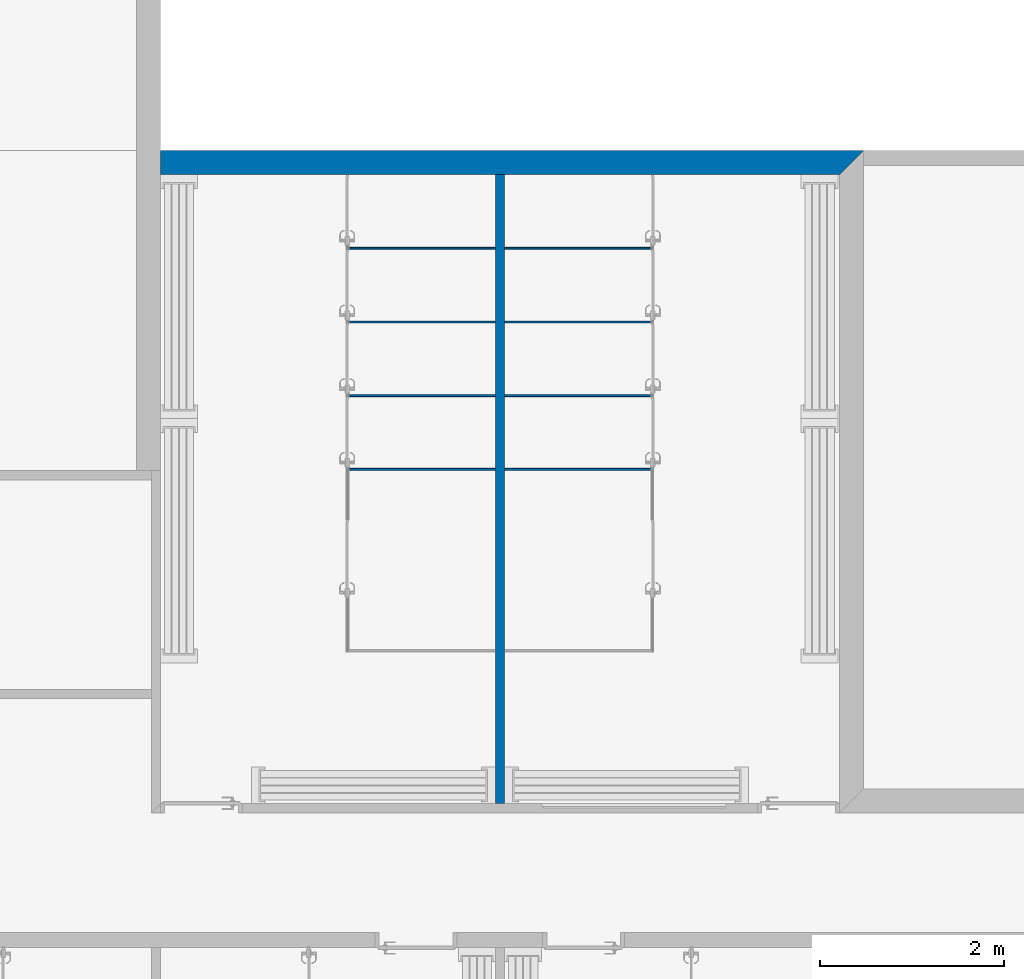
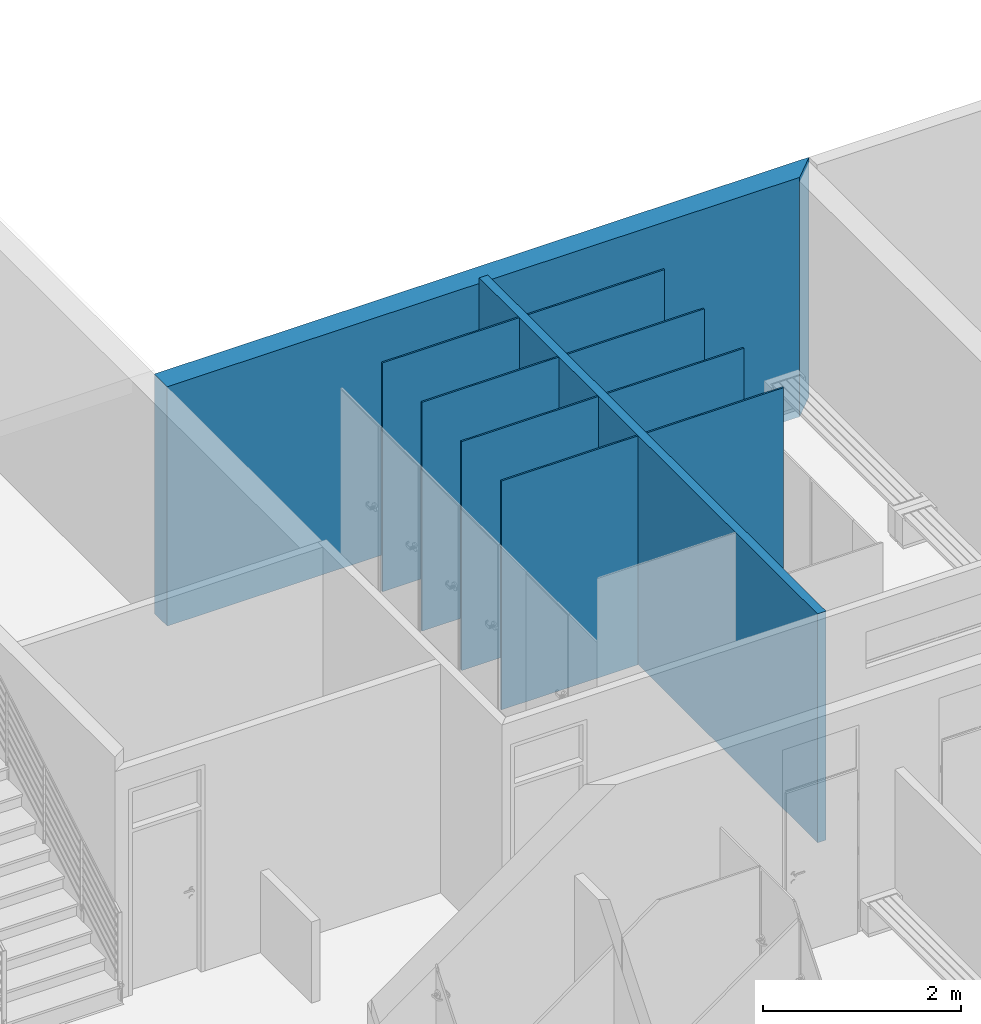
# One storey, part 26 of 45: 10 walls.
"""IFC2X3 building model written with IfcOpenShell, lengths in metres."""

from ifc_helpers import new_model, entity, si_unit, converted_unit, money_unit, direction, frame, origin_with_axes, place, context, subcontext, project, spatial, polyline, outline, extrude, material, layer, layer_set, layer_usage, type_object, element, save


model = new_model("IFC2X3")

# Units and contexts
model_context = context("Model", 3, precision=1e-05, world=origin_with_axes(), true_north=direction((0.0, 1.0)))
body_context = subcontext(model_context, "Body", "Model", "MODEL_VIEW")
ifc_project = project(units=[si_unit("LENGTHUNIT", "METRE"), si_unit("AREAUNIT", "SQUARE_METRE"), si_unit("VOLUMEUNIT", "CUBIC_METRE"), converted_unit("PLANEANGLEUNIT", "DEGREE", entity("IfcPlaneAngleMeasure", 0.0174532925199), si_unit("PLANEANGLEUNIT", "RADIAN"), dimensions=[0, 0, 0, 0, 0, 0, 0]), si_unit("SOLIDANGLEUNIT", "STERADIAN"), money_unit("EUR"), converted_unit("TIMEUNIT", "Year", entity("IfcTimeMeasure", 31556926.0), si_unit("TIMEUNIT", "SECOND"), dimensions=[0, 0, 0, 0, 0, 0, 0]), si_unit("MASSUNIT", "GRAM"), si_unit("THERMODYNAMICTEMPERATUREUNIT", "DEGREE_CELSIUS"), si_unit("LUMINOUSINTENSITYUNIT", "LUMEN")], contexts=[model_context])

# Site, building, storey
site_placement = place(None, origin_with_axes())
site = spatial("IfcSite", under=ifc_project, at=site_placement, Name="Site", CompositionType="ELEMENT")
building_placement = place(site_placement, origin_with_axes())
building = spatial("IfcBuilding", under=site, at=building_placement, Name="Bâtiment", CompositionType="ELEMENT")
storey_placement = place(building_placement, origin_with_axes())
storey = spatial("IfcBuildingStorey", under=building, at=storey_placement, Name="NIVEAU BAS GYMNASE", CompositionType="ELEMENT", Elevation=0.0)

# Walls
ifc_material_1 = material(Name="Hachure solide* 3962059836")
ifc_layer_1 = layer(ifc_material_1, 0.1, ventilated="UNKNOWN")
ifc_layer_set_1 = layer_set([ifc_layer_1], Name="Hachure solide* 3962059836 0.1")
ifc_layer_usage_1 = layer_usage(ifc_layer_set_1, "AXIS2", "POSITIVE", -0.1)
wall_type_1 = type_object("IfcWallType", Name="Hachure solide* 3962059836 100", PredefinedType="NOTDEFINED")
wall_1_placement = place(storey_placement, frame((59.468457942, 21.498815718, 0.0), z_axis=(0.0, 0.0, 1.0), x_axis=(0.0, -1.0, 0.0)))
element("IfcWallStandardCase", 1, at=wall_1_placement, inside=storey, type_object=wall_type_1, material=ifc_layer_usage_1, Name="Mur-007", context=body_context, shape_type="SweptSolid", body=[
    extrude(outline(polyline([(0.0, -0.1), (6.83, -0.1), (6.83, 0.0), (0.0, 0.0), (0.0, -0.1)])), origin_with_axes(), (0.0, 0.0, 1.0), 2.82),
])
ifc_material_2 = material(Name="Hachure solide* 3992800808")
ifc_layer_2 = layer(ifc_material_2, 0.02, ventilated="UNKNOWN")
ifc_material_3 = material(Name="Empty Fill 290923149")
ifc_layer_3 = layer(ifc_material_3, 0.08, ventilated="UNKNOWN")
ifc_material_4 = material(Name="Hachure solide* 2593434267")
ifc_layer_4 = layer(ifc_material_4, 0.16, ventilated="UNKNOWN")
ifc_layer_set_2 = layer_set([ifc_layer_2, ifc_layer_3, ifc_layer_4], Name="•GYMN 16+10")
ifc_layer_usage_2 = layer_usage(ifc_layer_set_2, "AXIS2", "POSITIVE", -0.26)
wall_type_2 = type_object("IfcWallType", Name="•GYMN 16+10 260", PredefinedType="NOTDEFINED")
wall_2_placement = place(storey_placement, frame((55.733457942, 21.758815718, -0.2), z_axis=(0.0, 0.0, 1.0), x_axis=(1.0, 0.0, 0.0)))
element("IfcWallStandardCase", 2, at=wall_2_placement, inside=storey, type_object=wall_type_2, material=ifc_layer_usage_2, Name="Mur-021", context=body_context, shape_type="SweptSolid", body=[
    extrude(outline(polyline([(0.0, -0.26), (7.37, -0.26), (7.63, 0.0), (0.0, 0.0), (0.0, -0.26)])), origin_with_axes(), (0.0, 0.0, 1.0), 2.95),
])
ifc_material_5 = material(Name="Hachure solide 3821565075")
ifc_layer_5 = layer(ifc_material_5, 0.02, ventilated="UNKNOWN")
ifc_layer_set_3 = layer_set([ifc_layer_5], Name="Hachure solide 3821565075 0.02")
ifc_layer_usage_3 = layer_usage(ifc_layer_set_3, "AXIS2", "POSITIVE", -0.01)
wall_type_3 = type_object("IfcWallType", Name="Hachure solide 3821565075 20", PredefinedType="NOTDEFINED")
wall_3_placement = place(storey_placement, frame((59.468457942, 19.898815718, 0.0), z_axis=(0.0, 0.0, 1.0), x_axis=(-1.0, 0.0, 0.0)))
element("IfcWallStandardCase", 3, at=wall_3_placement, inside=storey, type_object=wall_type_3, material=ifc_layer_usage_3, Name="Mur-022", context=body_context, shape_type="SweptSolid", body=[
    extrude(outline(polyline([(0.1, -0.01), (1.6947553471, -0.01), (1.6947553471, 0.01), (0.1, 0.01), (0.1, -0.01)])), origin_with_axes(), (0.0, 0.0, 1.0), 2.82),
])
ifc_layer_usage_4 = layer_usage(ifc_layer_set_3, "AXIS2", "POSITIVE", -0.01)
wall_4_placement = place(storey_placement, frame((59.468457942, 20.6988157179, 0.0), z_axis=(0.0, 0.0, 1.0), x_axis=(-1.0, 0.0, 0.0)))
element("IfcWallStandardCase", 4, at=wall_4_placement, inside=storey, type_object=wall_type_3, material=ifc_layer_usage_4, Name="Mur-022", context=body_context, shape_type="SweptSolid", body=[
    extrude(outline(polyline([(0.1, -0.01), (1.6947553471, -0.01), (1.6947553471, 0.01), (0.1, 0.01), (0.1, -0.01)])), origin_with_axes(), (0.0, 0.0, 1.0), 2.82),
])
ifc_layer_usage_5 = layer_usage(ifc_layer_set_3, "AXIS2", "POSITIVE", -0.01)
wall_5_placement = place(storey_placement, frame((59.468457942, 19.0988157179, 0.0), z_axis=(0.0, 0.0, 1.0), x_axis=(-1.0, 0.0, 0.0)))
element("IfcWallStandardCase", 5, at=wall_5_placement, inside=storey, type_object=wall_type_3, material=ifc_layer_usage_5, Name="Mur-023", context=body_context, shape_type="SweptSolid", body=[
    extrude(outline(polyline([(0.1, -0.01), (1.6947553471, -0.01), (1.6947553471, 0.01), (0.1, 0.01), (0.1, -0.01)])), origin_with_axes(), (0.0, 0.0, 1.0), 2.82),
])
ifc_layer_usage_6 = layer_usage(ifc_layer_set_3, "AXIS2", "POSITIVE", -0.01)
wall_6_placement = place(storey_placement, frame((59.468457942, 18.2986907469, 0.0), z_axis=(0.0, 0.0, 1.0), x_axis=(-1.0, 0.0, 0.0)))
element("IfcWallStandardCase", 6, at=wall_6_placement, inside=storey, type_object=wall_type_3, material=ifc_layer_usage_6, Name="Mur-023", context=body_context, shape_type="SweptSolid", body=[
    extrude(outline(polyline([(0.1, -0.01), (1.6947553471, -0.01), (1.6947553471, 0.01), (0.1, 0.01), (0.1, -0.01)])), origin_with_axes(), (0.0, 0.0, 1.0), 2.82),
])
ifc_layer_usage_7 = layer_usage(ifc_layer_set_3, "AXIS2", "POSITIVE", -0.01)
wall_7_placement = place(storey_placement, frame((59.468457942, 19.0988157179, 0.0), z_axis=(0.0, 0.0, 1.0), x_axis=(1.0, 0.0, 0.0)))
element("IfcWallStandardCase", 7, at=wall_7_placement, inside=storey, type_object=wall_type_3, material=ifc_layer_usage_7, Name="Mur-023", context=body_context, shape_type="SweptSolid", body=[
    extrude(outline(polyline([(0.0, -0.01), (1.5947553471, -0.01), (1.5947553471, 0.01), (0.0, 0.01), (0.0, -0.01)])), origin_with_axes(), (0.0, 0.0, 1.0), 2.82),
])
ifc_layer_usage_8 = layer_usage(ifc_layer_set_3, "AXIS2", "POSITIVE", -0.01)
wall_8_placement = place(storey_placement, frame((59.468457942, 18.2986907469, 0.0), z_axis=(0.0, 0.0, 1.0), x_axis=(1.0, 0.0, 0.0)))
element("IfcWallStandardCase", 8, at=wall_8_placement, inside=storey, type_object=wall_type_3, material=ifc_layer_usage_8, Name="Mur-023", context=body_context, shape_type="SweptSolid", body=[
    extrude(outline(polyline([(0.0, -0.01), (1.5947553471, -0.01), (1.5947553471, 0.01), (0.0, 0.01), (0.0, -0.01)])), origin_with_axes(), (0.0, 0.0, 1.0), 2.82),
])
ifc_layer_usage_9 = layer_usage(ifc_layer_set_3, "AXIS2", "POSITIVE", -0.01)
wall_9_placement = place(storey_placement, frame((59.468457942, 20.6988157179, 0.0), z_axis=(0.0, 0.0, 1.0), x_axis=(1.0, 0.0, 0.0)))
element("IfcWallStandardCase", 9, at=wall_9_placement, inside=storey, type_object=wall_type_3, material=ifc_layer_usage_9, Name="Mur-022", context=body_context, shape_type="SweptSolid", body=[
    extrude(outline(polyline([(0.0, -0.01), (1.5947553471, -0.01), (1.5947553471, 0.01), (0.0, 0.01), (0.0, -0.01)])), origin_with_axes(), (0.0, 0.0, 1.0), 2.82),
])
ifc_layer_usage_10 = layer_usage(ifc_layer_set_3, "AXIS2", "POSITIVE", -0.01)
wall_10_placement = place(storey_placement, frame((59.468457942, 19.898815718, 0.0), z_axis=(0.0, 0.0, 1.0), x_axis=(1.0, 0.0, 0.0)))
element("IfcWallStandardCase", 10, at=wall_10_placement, inside=storey, type_object=wall_type_3, material=ifc_layer_usage_10, Name="Mur-022", context=body_context, shape_type="SweptSolid", body=[
    extrude(outline(polyline([(0.0, -0.01), (1.5947553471, -0.01), (1.5947553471, 0.01), (0.0, 0.01), (0.0, -0.01)])), origin_with_axes(), (0.0, 0.0, 1.0), 2.82),
])

save(model, "model.ifc")
